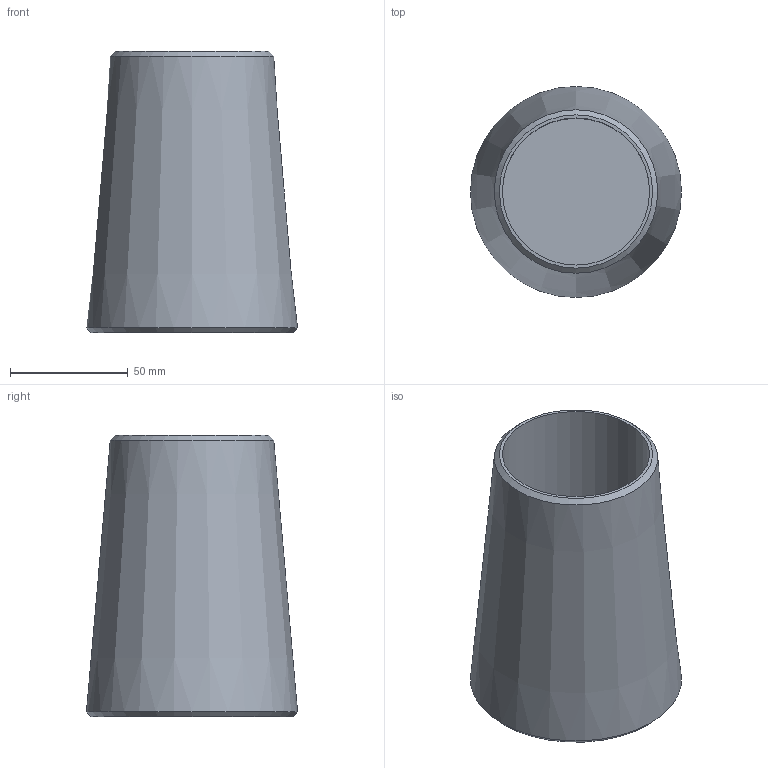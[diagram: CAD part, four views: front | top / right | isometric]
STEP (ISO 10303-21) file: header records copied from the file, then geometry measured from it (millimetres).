
FILE_DESCRIPTION(/* description */ (''),/* implementation_level */ '2;1');
FILE_NAME(/* name */ 'C:\Vault_WS\Designs\SB\01-PX\Verzinkt\ZSS\520 - Kontermutter\520-060-KMU.stp',/* time_stamp */ '2020-06-18T12:35:10+02:00',/* author */ ('schwarz'),/* organization */ (''),/* preprocessor_version */ 'ST-DEVELOPER v16.1',/* originating_system */ 'Autodesk Inventor 2016',/* authorisation */ '');
FILE_SCHEMA (('AUTOMOTIVE_DESIGN { 1 0 10303 214 3 1 1 }'));
Length unit declared in the file: millimetre
Products named in the file (1): Kontermutter 520 060 Kunde
Bounding box: 89.65 x 89.65 x 119.5 mm (x, y, z)
Volume: 321718.8 mm3; surface area: 57055.8 mm2
Topology: 1 solids, 1 shells, 7 faces, 10 edges, 6 vertices
Faces by surface type: cone 3, plane 3, cylinder 1
Full cylindrical faces by diameter (mm): 62.5 x1
Entity records: 158 total; most frequent: DIRECTION 28, CARTESIAN_POINT 20, AXIS2_PLACEMENT_3D 14, EDGE_LOOP 12, ORIENTED_EDGE 12, FACE_OUTER_BOUND 7, ADVANCED_FACE 7, CIRCLE 6
